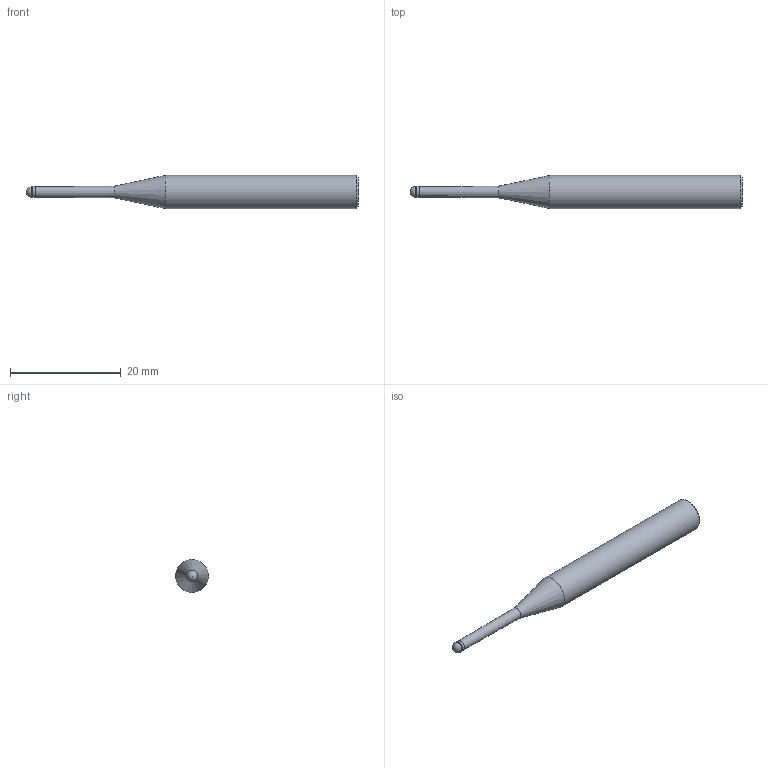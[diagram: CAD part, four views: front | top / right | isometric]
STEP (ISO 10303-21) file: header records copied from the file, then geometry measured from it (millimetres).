
FILE_DESCRIPTION(/* description */ (''),/* implementation_level */ '2;1');
FILE_NAME(/* name */ 'HGXPB2020-16-T0.4 0660.stp',/* time_stamp */ '2026-01-22T09:03:31+08:00',/* author */ (''),/* organization */ (''),/* preprocessor_version */ 'ST-DEVELOPER v16',/* originating_system */ 'SIEMENS PLM Software NX 10.0',/* authorisation */ '');
FILE_SCHEMA (('CONFIG_CONTROL_DESIGN'));
Length unit declared in the file: millimetre
Products named in the file (1): HGXPB2020-16-T0.4 0660_x_t
Bounding box: 60 x 6 x 6 mm (x, y, z)
Volume: 1160.3 mm3; surface area: 901.3 mm2
Topology: 1 solids, 1 shells, 9 faces, 17 edges, 10 vertices
Faces by surface type: cylinder 3, cone 3, plane 2, sphere 1
Full cylindrical faces by diameter (mm): 1.9 x1, 2 x1, 6 x1
Entity records: 258 total; most frequent: DIRECTION 36, CARTESIAN_POINT 26, AXIS2_PLACEMENT_3D 18, EDGE_LOOP 16, ORIENTED_EDGE 16, FACE_BOUND 14, ADVANCED_FACE 9, VERTEX_POINT 8
